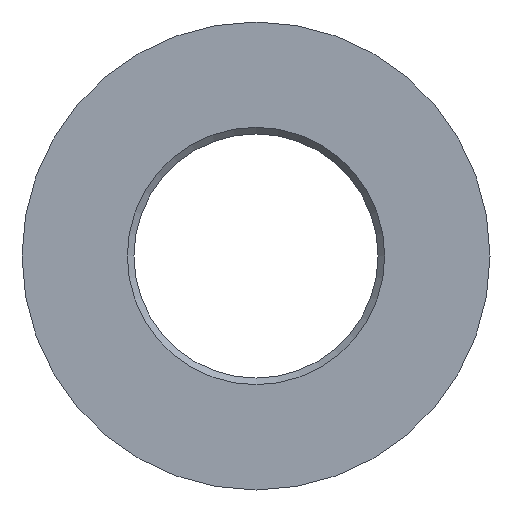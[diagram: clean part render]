
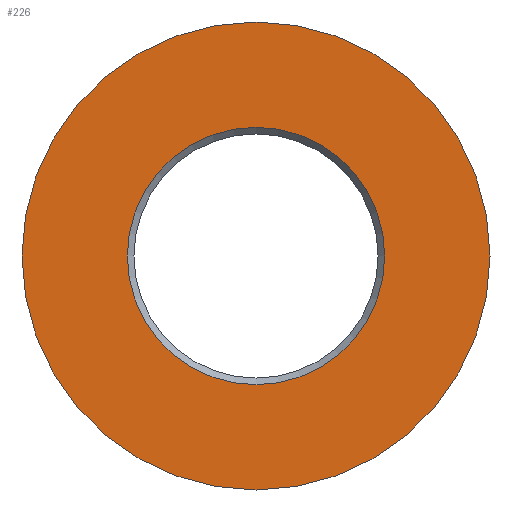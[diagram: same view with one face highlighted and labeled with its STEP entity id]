
A CAD part, left-side view. The second image highlights one B-rep face of the part: STEP entity #226.
In plain terms, the highlighted planar face has unit normal (-1, 0, 0).
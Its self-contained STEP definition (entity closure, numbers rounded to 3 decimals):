
#15=FACE_BOUND('',#53,.T.);
#21=PLANE('',#268);
#36=FACE_OUTER_BOUND('',#52,.T.);
#52=EDGE_LOOP('',(#167));
#53=EDGE_LOOP('',(#168));
#92=CIRCLE('',#267,6.325);
#93=CIRCLE('',#269,11.5);
#110=VERTEX_POINT('',#386);
#111=VERTEX_POINT('',#390);
#130=EDGE_CURVE('',#110,#110,#92,.T.);
#132=EDGE_CURVE('',#111,#111,#93,.T.);
#167=ORIENTED_EDGE('',*,*,#132,.F.);
#168=ORIENTED_EDGE('',*,*,#130,.F.);
#226=ADVANCED_FACE('',(#36,#15),#21,.T.);
#267=AXIS2_PLACEMENT_3D('',#387,#314,#315);
#268=AXIS2_PLACEMENT_3D('',#389,#317,#318);
#269=AXIS2_PLACEMENT_3D('',#391,#319,#320);
#314=DIRECTION('center_axis',(-1.,0.,0.));
#315=DIRECTION('ref_axis',(0.,-1.,0.));
#317=DIRECTION('center_axis',(-1.,0.,0.));
#318=DIRECTION('ref_axis',(0.,0.,1.));
#319=DIRECTION('center_axis',(1.,0.,0.));
#320=DIRECTION('ref_axis',(0.,0.,-1.));
#386=CARTESIAN_POINT('',(0.,6.325,0.));
#387=CARTESIAN_POINT('Origin',(0.,0.,0.));
#389=CARTESIAN_POINT('Origin',(0.,11.5,0.));
#390=CARTESIAN_POINT('',(0.,-11.5,0.));
#391=CARTESIAN_POINT('Origin',(0.,0.,0.));
